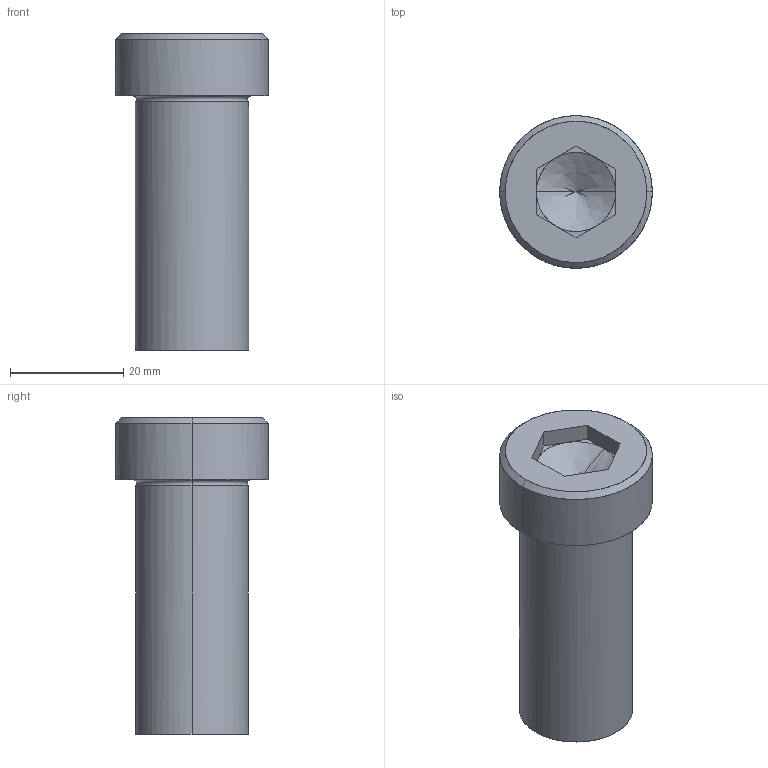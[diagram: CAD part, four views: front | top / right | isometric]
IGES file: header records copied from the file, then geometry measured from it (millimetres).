
Global section: file name: E:\UnigraphicsGraphicData\MISUMI_PRESS-PARTS\IGES\3d_sbtcn20-45_05133_r00.igs; native system: NX V5.0; preprocessor: UGS NX IGES V5.0; author: MISUMI; date: 20110105.162458; units: millimetre
Bounding box: 27 x 27 x 56 mm (x, y, z)
Surface area: 5856.5 mm2 (no closed solid volume)
Topology: 0 solids, 0 shells, 34 faces, 194 edges, 190 vertices
Faces by surface type: bspline 34
